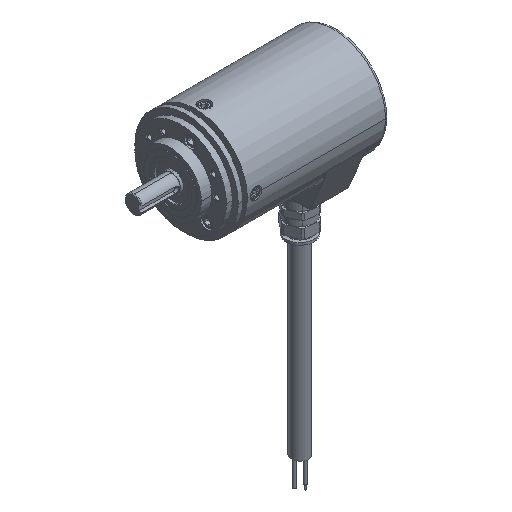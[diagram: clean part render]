
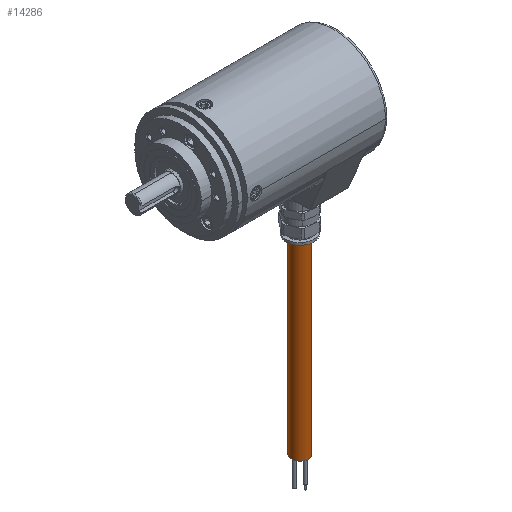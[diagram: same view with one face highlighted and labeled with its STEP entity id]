
A CAD part, isometric view. The second image highlights one B-rep face of the part: STEP entity #14286.
In plain terms, the highlighted cylindrical face has radius 5.75 mm (diameter 11.5 mm), a partial arc.
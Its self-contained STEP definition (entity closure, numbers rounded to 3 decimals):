
#229 = DIRECTION ( 'NONE',  ( 0., 0., 1. ) ) ;
#230 = VECTOR ( 'NONE', #229, 1000. ) ;
#231 = CARTESIAN_POINT ( 'NONE',  ( 78.003, -83.136, 65.491 ) ) ;
#232 = LINE ( 'NONE', #231, #230 ) ;
#5094 = CARTESIAN_POINT ( 'NONE',  ( 78.003, -83.136, 65.491 ) ) ;
#5100 = CARTESIAN_POINT ( 'NONE',  ( 83.397, -93.293, 200.491 ) ) ;
#5101 = DIRECTION ( 'NONE',  ( 0., 0., 1. ) ) ;
#5102 = VECTOR ( 'NONE', #5101, 1000. ) ;
#5103 = CARTESIAN_POINT ( 'NONE',  ( 83.397, -93.293, 65.491 ) ) ;
#5104 = LINE ( 'NONE', #5103, #5102 ) ;
#5151 = CARTESIAN_POINT ( 'NONE',  ( 83.397, -93.293, 65.491 ) ) ;
#5152 = DIRECTION ( 'NONE',  ( -0.469, 0.883, 0. ) ) ;
#5153 = DIRECTION ( 'NONE',  ( 0., 0., 1. ) ) ;
#5154 = CARTESIAN_POINT ( 'NONE',  ( 80.7, -88.215, 65.491 ) ) ;
#5155 = AXIS2_PLACEMENT_3D ( 'NONE', #5154, #5153, #5152 ) ;
#5156 = CIRCLE ( 'NONE', #5155, 5.75 ) ;
#5226 = FACE_OUTER_BOUND ( 'NONE', #14250, .T. ) ;
#5228 = DIRECTION ( 'NONE',  ( -0.469, 0.883, 0. ) ) ;
#5229 = DIRECTION ( 'NONE',  ( 0., 0., 1. ) ) ;
#5230 = CARTESIAN_POINT ( 'NONE',  ( 80.7, -88.215, 200.491 ) ) ;
#5231 = AXIS2_PLACEMENT_3D ( 'NONE', #5230, #5229, #5228 ) ;
#5237 = CIRCLE ( 'NONE', #5231, 5.75 ) ;
#5268 = DIRECTION ( 'NONE',  ( -0.469, 0.883, 0. ) ) ;
#5269 = DIRECTION ( 'NONE',  ( 0., 0., 1. ) ) ;
#5270 = CARTESIAN_POINT ( 'NONE',  ( 80.7, -88.215, 65.491 ) ) ;
#5271 = AXIS2_PLACEMENT_3D ( 'NONE', #5270, #5269, #5268 ) ;
#5272 = CYLINDRICAL_SURFACE ( 'NONE', #5271, 5.75 ) ;
#7230 = VERTEX_POINT ( 'NONE', #12791 ) ;
#7417 = ORIENTED_EDGE ( 'NONE', *, *, #14284, .F. ) ;
#11775 = ORIENTED_EDGE ( 'NONE', *, *, #11777, .F. ) ;
#11777 = EDGE_CURVE ( 'NONE', #14255, #7230, #232, .T. ) ;
#12791 = CARTESIAN_POINT ( 'NONE',  ( 78.003, -83.136, 200.491 ) ) ;
#14250 = EDGE_LOOP ( 'NONE', ( #14287, #14270, #7417, #11775 ) ) ;
#14252 = EDGE_CURVE ( 'NONE', #14257, #14253, #5104, .T. ) ;
#14253 = VERTEX_POINT ( 'NONE', #5100 ) ;
#14255 = VERTEX_POINT ( 'NONE', #5094 ) ;
#14256 = EDGE_CURVE ( 'NONE', #14255, #14257, #5156, .T. ) ;
#14257 = VERTEX_POINT ( 'NONE', #5151 ) ;
#14270 = ORIENTED_EDGE ( 'NONE', *, *, #14252, .T. ) ;
#14284 = EDGE_CURVE ( 'NONE', #7230, #14253, #5237, .T. ) ;
#14286 = ADVANCED_FACE ( 'NONE', ( #5226 ), #5272, .T. ) ;
#14287 = ORIENTED_EDGE ( 'NONE', *, *, #14256, .T. ) ;
